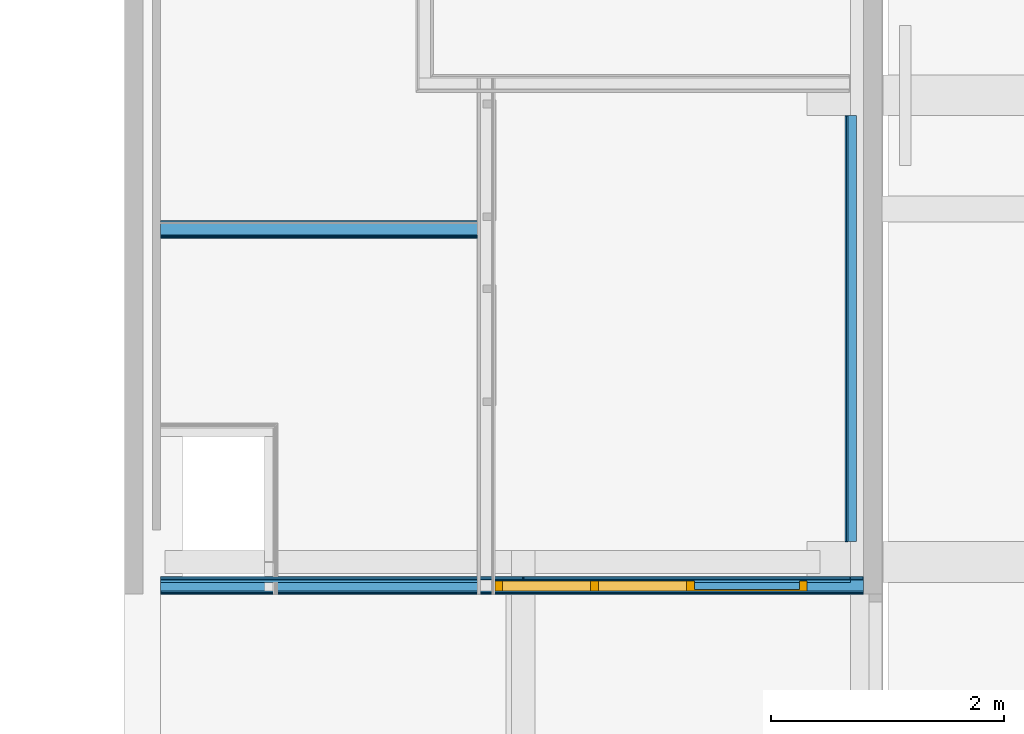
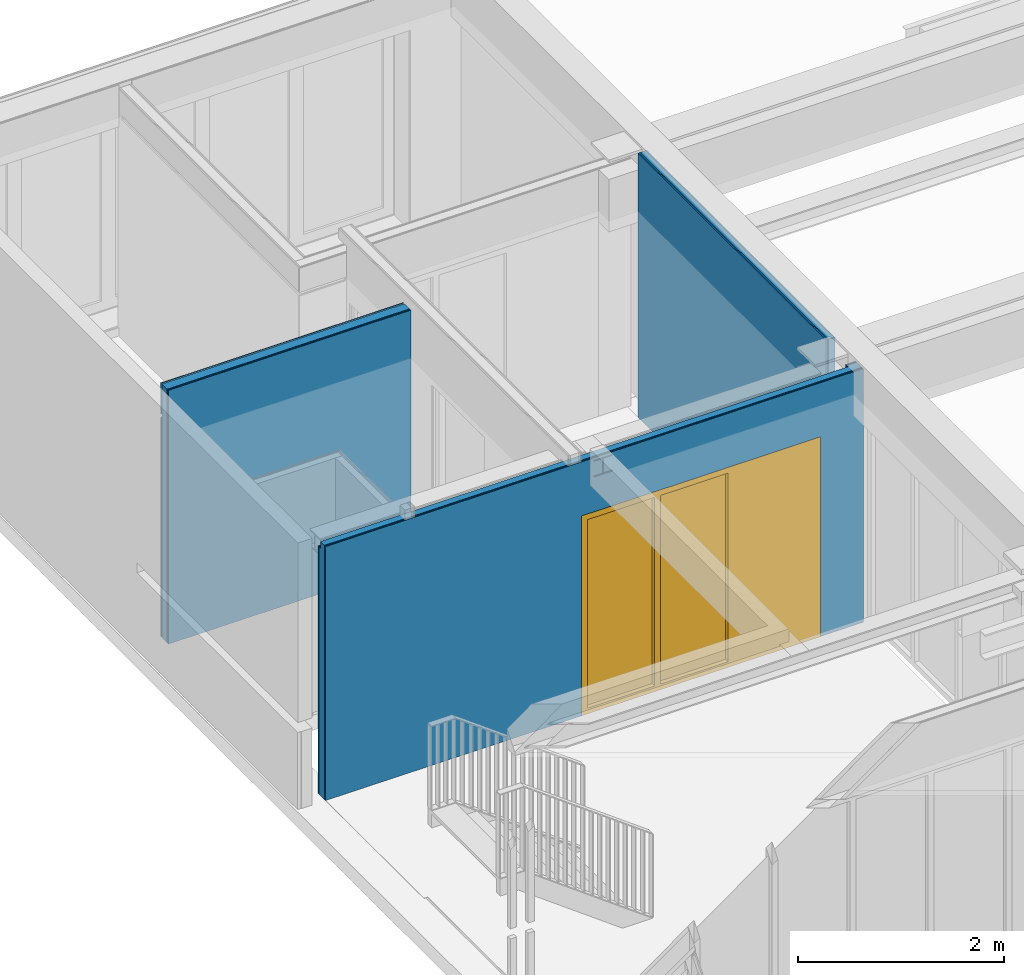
# One storey, part 7 of 13: 12 building element parts, 1 door, 1 opening, 3 elements without a shape of their own.
"""IFC2X3 building model written with IfcOpenShell, lengths in millimetres."""

from ifc_helpers import new_model, entity, si_unit, converted_unit, derived_unit, money_unit, direction, frame, origin_with_axes, place, context, subcontext, project, spatial, open_shell, faceted_brep, surface_model, material, type_object, element, fill, aggregate, save


model = new_model("IFC2X3")

# Units and contexts
model_context = context("Model", 3, precision=0.01, world=origin_with_axes(), true_north=direction((0.0, 1.0)))
body_context = subcontext(model_context, "Body", "Model", "MODEL_VIEW")
ifc_project = project(units=[si_unit("LENGTHUNIT", "METRE", prefix="MILLI"), si_unit("AREAUNIT", "SQUARE_METRE"), si_unit("VOLUMEUNIT", "CUBIC_METRE"), converted_unit("PLANEANGLEUNIT", "DEGREE", entity("IfcPlaneAngleMeasure", 0.0174532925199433), si_unit("PLANEANGLEUNIT", "RADIAN"), dimensions=[0, 0, 0, 0, 0, 0, 0]), money_unit("EUR"), converted_unit("TIMEUNIT", "Year", entity("IfcTimeMeasure", 31557600.0), si_unit("TIMEUNIT", "SECOND"), dimensions=[0, 0, 1, 0, 0, 0, 0]), si_unit("MASSUNIT", "GRAM", prefix="KILO"), si_unit("THERMODYNAMICTEMPERATUREUNIT", "DEGREE_CELSIUS"), si_unit("LUMINOUSINTENSITYUNIT", "LUMEN"), si_unit("ENERGYUNIT", "JOULE", prefix="MEGA"), derived_unit("THERMALCONDUCTANCEUNIT", [(si_unit("POWERUNIT", "WATT"), 1), (si_unit("LENGTHUNIT", "METRE"), -1), (si_unit("THERMODYNAMICTEMPERATUREUNIT", "KELVIN"), -1)]), derived_unit("SPECIFICHEATCAPACITYUNIT", [(si_unit("ENERGYUNIT", "JOULE"), 1), (si_unit("MASSUNIT", "GRAM", prefix="KILO"), -1), (si_unit("THERMODYNAMICTEMPERATUREUNIT", "KELVIN"), -1)]), derived_unit("MASSDENSITYUNIT", [(si_unit("MASSUNIT", "GRAM", prefix="KILO"), 1), (si_unit("VOLUMEUNIT", "CUBIC_METRE"), -1)])], contexts=[model_context])

# Site, building, storey
site_placement = place(None, origin_with_axes())
site = spatial("IfcSite", under=ifc_project, at=site_placement, Name="<site naam>", CompositionType="ELEMENT")
building_placement = place(site_placement, origin_with_axes())
building = spatial("IfcBuilding", under=site, at=building_placement, Name="<Naam gebouw>", CompositionType="ELEMENT")
storey_placement = place(building_placement, frame((0.0, 0.0, 3188.0), z_axis=(0.0, 0.0, 1.0), x_axis=(1.0, 0.0, 0.0)))
storey = spatial("IfcBuildingStorey", under=building, at=storey_placement, Name="01 1e tussenverdieping", CompositionType="ELEMENT", Elevation=3188.0)

# Door
door_style = type_object("IfcDoorStyle", Name="D1 zl1-b 27", ConstructionType="NOTDEFINED", OperationType="SINGLE_SWING_LEFT", ParameterTakesPrecedence=False, Sizeable=False)
wall_1_placement = place(storey_placement, frame((58157.78284470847, 11725.00000000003, 0.0), z_axis=(0.0, 0.0, 1.0), x_axis=(-1.0, 0.0, 0.0)))
opening_placement = place(wall_1_placement, frame((1820.154360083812, 0.0, 0.0), z_axis=(0.0, 0.0, 1.0), x_axis=(1.0, 0.0, 0.0)))
door_placement = place(opening_placement, frame((-1337.637769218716, 0.0, 0.0), z_axis=(0.0, 0.0, 1.0), x_axis=(1.0, 0.0, 0.0)))
door = element("IfcDoor", 1, at=door_placement, inside=storey, type_object=door_style, Name="22_BI-E-16_305", ObjectType="DOOR", OverallHeight=2367.0, OverallWidth=2675.28, context=body_context, shape_type="SurfaceModel", body=[
    faceted_brep([(2675.275538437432, 0.0, 0.0), (2675.275538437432, -114.0000000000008, 0.0), (2608.275538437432, -114.0000000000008, 0.0), (2608.275538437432, 0.0, 0.0), (2675.275538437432, 0.0, 2300.0), (2675.275538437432, -114.0000000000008, 2300.0), (2608.275538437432, -114.0000000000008, 2300.0), (2608.275538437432, -114.0000000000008, 67.00000000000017), (2608.275538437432, 0.0, 67.00000000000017), (2608.275538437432, 0.0, 2300.0)], [[[0, 1, 2, 3]], [[4, 5, 1, 0]], [[1, 5, 6, 7, 2]], [[3, 2, 7, 8]], [[0, 3, 8, 9, 4]], [[9, 6, 5, 4]], [[8, 7, 6, 9]]]),
    faceted_brep([(967.0000000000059, -39.99999999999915, 0.0), (967.0000000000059, -114.0000000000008, 0.0), (967.0000000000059, -113.999999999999, 2300.0), (967.0000000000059, -39.99999999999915, 2300.0), (984.0000000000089, -39.99999999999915, 0.0), (984.0000000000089, 0.0, 0.0), (1034.000000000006, 0.0, 0.0), (1034.000000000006, -114.0000000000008, 0.0), (1034.000000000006, -114.0000000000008, 67.00000000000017), (1034.000000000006, -113.999999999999, 2300.0), (984.0000000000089, -39.99999999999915, 2300.0), (1034.000000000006, 0.0, 2300.0), (984.0000000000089, 0.0, 2300.0), (1034.000000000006, 0.0, 66.99999999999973)], [[[0, 1, 2, 3]], [[4, 5, 6, 7, 1, 0]], [[7, 8, 9, 2, 1]], [[10, 3, 2, 9, 11, 12]], [[10, 4, 0, 3]], [[12, 5, 4, 10]], [[12, 11, 13, 6, 5]], [[6, 13, 8, 7]], [[13, 11, 9, 8]]]),
    faceted_brep([(2608.275538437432, 0.0, 67.00000000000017), (2608.275538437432, -114.0000000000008, 67.00000000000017), (2608.275538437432, -114.0000000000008, 0.0), (2608.275538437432, 0.0, 0.0), (1034.000000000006, 0.0, 67.00000000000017), (1034.000000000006, -114.0000000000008, 67.00000000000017), (1034.000000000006, -114.0000000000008, 0.0), (1034.000000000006, 0.0, 0.0)], [[[0, 1, 2, 3]], [[4, 5, 1, 0]], [[1, 5, 6, 2]], [[3, 2, 6, 7]], [[0, 3, 7, 4]], [[7, 6, 5, 4]]]),
    faceted_brep([(49.99999999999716, -39.99999999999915, 2300.0), (49.99999999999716, 0.0, 2300.0), (0.0, 0.0, 2300.0), (0.0, -113.999999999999, 2300.0), (67.00000000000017, -113.999999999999, 2300.0), (67.00000000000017, -39.99999999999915, 2300.0), (49.99999999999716, -39.99999999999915, 0.0), (49.99999999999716, 0.0, 0.0), (0.0, 0.0, 0.0), (0.0, -113.999999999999, 0.0), (67.00000000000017, -113.999999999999, 0.0), (67.00000000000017, -39.99999999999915, 0.0)], [[[0, 1, 2, 3, 4, 5]], [[0, 6, 7, 1]], [[7, 8, 2, 1]], [[2, 8, 9, 3]], [[3, 9, 10, 4]], [[5, 4, 10, 11]], [[5, 11, 6, 0]], [[6, 11, 10, 9, 8, 7]]]),
    faceted_brep([(984.0000000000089, 0.0, 2317.0), (49.99999999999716, 0.0, 2317.0), (49.99999999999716, 0.0, 2300.0), (0.0, 0.0, 2300.0), (0.0, 0.0, 2367.0), (2675.275538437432, 0.0, 2367.0), (2675.275538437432, 0.0, 2300.0), (2608.275538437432, 0.0, 2300.0), (1034.000000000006, 0.0, 2300.0), (984.0000000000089, 0.0, 2300.0), (984.0000000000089, -39.99999999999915, 2317.0), (49.99999999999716, -39.99999999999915, 2317.0), (49.99999999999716, -39.99999999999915, 2300.0), (67.00000000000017, -39.99999999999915, 2300.0), (67.00000000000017, -113.999999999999, 2300.0), (0.0, -113.999999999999, 2300.0), (0.0, -113.999999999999, 2367.0), (2675.275538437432, -114.0000000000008, 2367.0), (2675.275538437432, -114.0000000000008, 2300.0), (2608.275538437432, -114.0000000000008, 2300.0), (1034.000000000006, -113.999999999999, 2300.0), (984.0000000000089, -39.99999999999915, 2300.0), (967.0000000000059, -113.999999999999, 2300.0)], [[[0, 1, 2, 3, 4, 5, 6, 7, 8, 9]], [[0, 10, 11, 1]], [[1, 11, 12, 2]], [[12, 13, 14, 15, 3, 2]], [[4, 3, 15, 16]], [[5, 4, 16, 17]], [[6, 5, 17, 18]], [[7, 6, 18, 19]], [[8, 7, 19, 20]], [[21, 9, 8, 20, 22, 14, 13]], [[9, 21, 10, 0]], [[12, 11, 10, 21, 13]], [[14, 22, 20, 19, 18, 17, 16, 15]]]),
    faceted_brep([(49.99999999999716, 0.0, 0.0), (984.0000000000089, 0.0, 0.0), (984.0000000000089, -39.99999999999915, 0.0), (49.99999999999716, -39.99999999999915, 0.0), (49.99999999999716, 0.0, 2317.0), (984.0000000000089, 0.0, 2317.0), (984.0000000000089, -39.99999999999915, 2317.0), (49.99999999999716, -39.99999999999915, 2317.0)], [[[0, 1, 2, 3]], [[0, 4, 5, 1]], [[1, 5, 6, 2]], [[3, 2, 6, 7]], [[4, 0, 3, 7]], [[5, 4, 7, 6]]]),
    surface_model("IfcShellBasedSurfaceModel", [(1854.637769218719, -60.0000000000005, 67.00000000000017), (2608.275538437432, -60.0000000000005, 67.00000000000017), (2608.275538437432, -60.0000000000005, 2300.0), (1854.637769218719, -60.0000000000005, 2300.0)], [open_shell([[[0, 1, 2, 3]]])]),
    surface_model("IfcShellBasedSurfaceModel", [(1854.637769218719, -48.00000000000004, 67.00000000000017), (1854.637769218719, -48.00000000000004, 2300.0), (2608.275538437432, -48.00000000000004, 2300.0), (2608.275538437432, -48.00000000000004, 67.00000000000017)], [open_shell([[[0, 1, 2, 3]]])]),
    surface_model("IfcShellBasedSurfaceModel", [(1034.000000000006, -60.0000000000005, 67.00000000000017), (1787.637769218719, -60.0000000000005, 67.00000000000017), (1787.637769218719, -60.0000000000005, 2300.0), (1034.000000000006, -60.0000000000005, 2300.0)], [open_shell([[[0, 1, 2, 3]]])]),
    surface_model("IfcShellBasedSurfaceModel", [(1034.000000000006, -48.00000000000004, 67.00000000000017), (1034.000000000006, -48.00000000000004, 2300.0), (1787.637769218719, -48.00000000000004, 2300.0), (1787.637769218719, -48.00000000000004, 67.00000000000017)], [open_shell([[[0, 1, 2, 3]]])]),
    faceted_brep([(1854.637769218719, -114.0000000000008, 67.00000000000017), (1787.637769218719, -114.0000000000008, 67.00000000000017), (1787.637769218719, 0.0, 67.00000000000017), (1854.637769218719, 0.0, 67.00000000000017), (1854.637769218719, -114.0000000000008, 2300.0), (1787.637769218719, -114.0000000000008, 2300.0), (1787.637769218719, 0.0, 2300.0), (1854.637769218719, 0.0, 2300.0)], [[[0, 1, 2, 3]], [[0, 4, 5, 1]], [[1, 5, 6, 2]], [[3, 2, 6, 7]], [[4, 0, 3, 7]], [[5, 4, 7, 6]]]),
])

# Wall, opening
wall_type_1 = type_object("IfcWallType", Name="MS-01 GF 150 ECO DGS/2.100.2.A 150", PredefinedType="NOTDEFINED")
wall_1 = element("IfcWall", 2, at=wall_1_placement, inside=storey, type_object=wall_type_1, Name="22_Binnenwand_MS-01")
opening = element("IfcOpeningElement", 3, at=opening_placement, cuts=wall_1, Name="22_BI-E-16_305", context=body_context, shape_type="Brep", body=[
    faceted_brep([(-1337.637769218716, -150.9999999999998, 2367.0), (-1337.637769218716, -150.9999999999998, 0.0), (1337.637769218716, -150.9999999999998, 0.0), (1337.637769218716, -150.9999999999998, 2367.0), (-1337.637769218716, 0.9999999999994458, 2367.0), (-1337.637769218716, 0.9999999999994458, 0.0), (1337.637769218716, 0.9999999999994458, 0.0), (1337.637769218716, 0.9999999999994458, 2367.0)], [[[0, 1, 2, 3]], [[4, 5, 1, 0]], [[5, 6, 2, 1]], [[6, 7, 3, 2]], [[7, 4, 0, 3]], [[6, 5, 4, 7]]]),
])

fill(opening, door)

# Building element part
ifc_material_1 = material(Name="gipsplaat")
building_element_part_1_placement = place(wall_1_placement, origin_with_axes())
building_element_part_1 = element("IfcBuildingElementPart", 4, at=building_element_part_1_placement, material=ifc_material_1, Name="gipsplaat", context=body_context, shape_type="Brep", body=[
    faceted_brep([(3157.782863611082, -12.49999999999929, 0.0), (3157.782863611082, -12.50000000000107, 3.000000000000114), (-8.687576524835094e-05, -12.49999999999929, 3.000000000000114), (0.0, -12.49999999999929, 3006.999999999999), (6022.78284470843, -12.50000000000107, 3006.999999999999), (6022.78284470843, -12.50000000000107, 0.0), (3015.684489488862, -12.50000000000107, 2962.013962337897), (3015.684489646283, -12.50000000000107, 2977.013969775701), (2815.684483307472, -12.50000000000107, 2977.013969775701), (2815.684483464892, -12.50000000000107, 2962.013962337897), (2911.184486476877, -12.50000000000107, 2962.013962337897), (2911.184486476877, -12.50000000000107, 2792.013968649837), (2815.684483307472, -12.50000000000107, 2792.013968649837), (2815.684483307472, -12.50000000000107, 2777.013961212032), (3015.684489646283, -12.50000000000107, 2777.013961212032), (3015.684489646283, -12.50000000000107, 2792.013968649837), (2920.184486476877, -12.50000000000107, 2792.013968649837), (2920.184486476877, -12.50000000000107, 2962.013962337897), (3157.782863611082, -25.00000000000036, 0.0), (3157.782863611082, -25.00000000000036, 3.000000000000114), (-8.687576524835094e-05, -25.00000000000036, 3.000000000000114), (0.0, -25.00000000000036, 3006.999999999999), (6022.78284470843, -25.00000000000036, 3006.999999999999), (6022.78284470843, -25.00000000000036, 0.0), (3015.684489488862, -25.00000000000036, 2962.013962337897), (3015.684489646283, -25.00000000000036, 2977.013969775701), (2815.684483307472, -25.00000000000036, 2977.013969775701), (2815.684483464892, -25.00000000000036, 2962.013962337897), (2911.184486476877, -25.00000000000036, 2962.013962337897), (2911.184486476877, -25.00000000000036, 2792.013968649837), (2815.684483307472, -25.00000000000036, 2792.013968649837), (2815.684483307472, -25.00000000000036, 2777.013961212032), (3015.684489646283, -25.00000000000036, 2777.013961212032), (3015.684489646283, -25.00000000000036, 2792.013968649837), (2920.184486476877, -25.00000000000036, 2792.013968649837), (2920.184486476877, -25.00000000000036, 2962.013962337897)], [[[0, 1, 2, 3, 4, 5], [6, 7, 8, 9, 10, 11, 12, 13, 14, 15, 16, 17]], [[0, 18, 19, 1]], [[1, 19, 20, 2]], [[3, 2, 20, 21]], [[3, 21, 22, 4]], [[22, 23, 5, 4]], [[23, 18, 0, 5]], [[24, 25, 7, 6]], [[25, 26, 8, 7]], [[26, 27, 9, 8]], [[27, 28, 10, 9]], [[28, 29, 11, 10]], [[29, 30, 12, 11]], [[30, 31, 13, 12]], [[31, 32, 14, 13]], [[32, 33, 15, 14]], [[33, 34, 16, 15]], [[34, 35, 17, 16]], [[35, 24, 6, 17]], [[20, 19, 18, 23, 22, 21], [28, 27, 26, 25, 24, 35, 34, 33, 32, 31, 30, 29]]]),
])

building_element_part_2_placement = place(wall_1_placement, origin_with_axes())
building_element_part_2 = element("IfcBuildingElementPart", 5, at=building_element_part_2_placement, material=ifc_material_1, Name="gipsplaat", context=body_context, shape_type="Brep", body=[
    faceted_brep([(3157.782863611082, 4.496944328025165e-05, 0.0), (3157.782863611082, 4.496944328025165e-05, 3.000000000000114), (-8.687576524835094e-05, 0.0, 3.000000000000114), (0.0, 0.0, 3006.999999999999), (6022.78284470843, 0.0, 3006.999999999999), (6022.78284470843, 0.0, 0.0), (3015.684489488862, 4.496944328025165e-05, 2962.013962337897), (3015.684489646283, 4.496944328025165e-05, 2977.013969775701), (2815.684483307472, 4.496944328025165e-05, 2977.013969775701), (2815.684483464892, 4.496944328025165e-05, 2962.013962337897), (2911.184486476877, 4.496944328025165e-05, 2962.013962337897), (2911.184486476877, 4.496944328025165e-05, 2792.013968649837), (2815.684483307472, 4.496944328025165e-05, 2792.013968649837), (2815.684483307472, 4.496944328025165e-05, 2777.013961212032), (3015.684489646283, 4.496944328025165e-05, 2777.013961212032), (3015.684489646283, 4.496944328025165e-05, 2792.013968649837), (2920.184486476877, 4.496944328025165e-05, 2792.013968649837), (2920.184486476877, 4.496944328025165e-05, 2962.013962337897), (3157.782863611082, -12.49999999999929, 0.0), (3157.782863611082, -12.50000000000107, 3.000000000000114), (-8.687576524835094e-05, -12.49999999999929, 3.000000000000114), (0.0, -12.49999999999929, 3006.999999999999), (6022.78284470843, -12.50000000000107, 3006.999999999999), (6022.78284470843, -12.50000000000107, 0.0), (3015.684489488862, -12.50000000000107, 2962.013962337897), (3015.684489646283, -12.50000000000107, 2977.013969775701), (2815.684483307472, -12.50000000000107, 2977.013969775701), (2815.684483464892, -12.50000000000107, 2962.013962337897), (2911.184486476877, -12.50000000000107, 2962.013962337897), (2911.184486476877, -12.50000000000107, 2792.013968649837), (2815.684483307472, -12.50000000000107, 2792.013968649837), (2815.684483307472, -12.50000000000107, 2777.013961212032), (3015.684489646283, -12.50000000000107, 2777.013961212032), (3015.684489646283, -12.50000000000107, 2792.013968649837), (2920.184486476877, -12.50000000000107, 2792.013968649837), (2920.184486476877, -12.50000000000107, 2962.013962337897)], [[[0, 1, 2, 3, 4, 5], [6, 7, 8, 9, 10, 11, 12, 13, 14, 15, 16, 17]], [[0, 18, 19, 1]], [[1, 19, 20, 2]], [[3, 2, 20, 21]], [[3, 21, 22, 4]], [[22, 23, 5, 4]], [[23, 18, 0, 5]], [[24, 25, 7, 6]], [[25, 26, 8, 7]], [[26, 27, 9, 8]], [[27, 28, 10, 9]], [[28, 29, 11, 10]], [[29, 30, 12, 11]], [[30, 31, 13, 12]], [[31, 32, 14, 13]], [[32, 33, 15, 14]], [[33, 34, 16, 15]], [[34, 35, 17, 16]], [[35, 24, 6, 17]], [[20, 19, 18, 23, 22, 21], [28, 27, 26, 25, 24, 35, 34, 33, 32, 31, 30, 29]]]),
])

ifc_material_2 = material(Name="isolatie_steenwol LSW")
building_element_part_3_placement = place(wall_1_placement, origin_with_axes())
building_element_part_3 = element("IfcBuildingElementPart", 6, at=building_element_part_3_placement, material=ifc_material_2, Name="isolatie_steenwol LSW", context=body_context, shape_type="Brep", body=[
    faceted_brep([(2911.184486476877, -125.0, 2926.999999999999), (112.7830614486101, -125.0, 2926.999999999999), (112.7830614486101, -125.0, 3006.999999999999), (0.0, -125.0, 3006.999999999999), (-8.687576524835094e-05, -125.0, 3.000000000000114), (3157.782863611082, -125.0, 3.000000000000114), (3157.782863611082, -125.0, 0.0), (6022.78284470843, -125.0, 0.0), (6022.78284470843, -125.0, 2926.999999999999), (2920.184486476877, -125.0, 2926.999999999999), (2920.184486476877, -125.0, 2792.013968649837), (3015.684489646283, -125.0, 2792.013968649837), (3015.684489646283, -125.0, 2777.013961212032), (2815.684483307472, -125.0, 2777.013961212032), (2815.684483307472, -125.0, 2792.013968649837), (2911.184486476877, -125.0, 2792.013968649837), (2911.184486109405, -99.9999999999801, 2926.999999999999), (112.7830614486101, -99.9999999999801, 2926.999999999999), (112.7830614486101, -99.9999999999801, 3006.999999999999), (6022.78284470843, -99.9999999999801, 3006.999999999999), (6022.78284470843, -25.00000000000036, 3006.999999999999), (0.0, -25.00000000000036, 3006.999999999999), (-8.687576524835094e-05, -25.00000000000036, 3.000000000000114), (3157.782863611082, -25.00000000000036, 3.000000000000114), (3157.782863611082, -25.00000000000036, 0.0), (6022.78284470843, -25.00000000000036, 0.0), (6022.78284470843, -99.9999999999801, 2926.999999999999), (2920.184487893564, -99.9999999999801, 2926.999999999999), (2920.184486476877, -99.9999999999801, 2962.013962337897), (2920.184486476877, -25.00000000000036, 2962.013962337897), (2920.184486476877, -25.00000000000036, 2792.013968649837), (3015.684489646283, -25.00000000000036, 2792.013968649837), (3015.684489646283, -25.00000000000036, 2777.013961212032), (2815.684483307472, -25.00000000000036, 2777.013961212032), (2815.684483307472, -25.00000000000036, 2792.013968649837), (2911.184486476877, -25.00000000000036, 2792.013968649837), (2911.184486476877, -25.00000000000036, 2962.013962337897), (2911.184486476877, -99.9999999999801, 2962.013962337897), (2815.684483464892, -99.9999999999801, 2962.013962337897), (2815.684483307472, -99.9999999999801, 2977.013969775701), (3015.684489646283, -99.9999999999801, 2977.013969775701), (3015.684489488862, -99.9999999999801, 2962.013962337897), (3015.684489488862, -25.00000000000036, 2962.013962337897), (3015.684489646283, -25.00000000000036, 2977.013969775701), (2815.684483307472, -25.00000000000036, 2977.013969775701), (2815.684483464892, -25.00000000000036, 2962.013962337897)], [[[0, 1, 2, 3, 4, 5, 6, 7, 8, 9, 10, 11, 12, 13, 14, 15]], [[1, 0, 16, 17]], [[18, 2, 1, 17]], [[18, 19, 20, 21, 3, 2]], [[3, 21, 22, 4]], [[22, 23, 5, 4]], [[23, 24, 6, 5]], [[25, 7, 6, 24]], [[26, 8, 7, 25, 20, 19]], [[27, 9, 8, 26]], [[27, 28, 29, 30, 10, 9]], [[31, 11, 10, 30]], [[32, 12, 11, 31]], [[33, 13, 12, 32]], [[34, 14, 13, 33]], [[35, 15, 14, 34]], [[16, 0, 15, 35, 36, 37]], [[19, 18, 17, 16, 37, 38, 39, 40, 41, 28, 27, 26]], [[25, 24, 23, 22, 21, 20], [29, 42, 43, 44, 45, 36, 35, 34, 33, 32, 31, 30]], [[28, 41, 42, 29]], [[38, 37, 36, 45]], [[39, 38, 45, 44]], [[40, 39, 44, 43]], [[41, 40, 43, 42]]]),
])

building_element_part_4_placement = place(wall_1_placement, origin_with_axes())
building_element_part_4 = element("IfcBuildingElementPart", 7, at=building_element_part_4_placement, material=ifc_material_1, Name="gipsplaat", context=body_context, shape_type="Brep", body=[
    faceted_brep([(2911.184486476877, -137.5000000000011, 2926.999999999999), (112.7830614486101, -137.4999999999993, 2926.999999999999), (112.7830614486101, -137.4999999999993, 3006.999999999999), (0.0, -137.4999999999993, 3006.999999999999), (-8.687576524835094e-05, -137.4999999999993, 3.000000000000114), (3157.782863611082, -137.5000000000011, 3.000000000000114), (3157.782863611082, -137.4999999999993, 0.0), (6022.78284470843, -137.5000000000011, 0.0), (6022.78284470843, -137.4999999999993, 2926.999999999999), (2920.184486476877, -137.5000000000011, 2926.999999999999), (2920.184486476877, -137.5000000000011, 2792.013968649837), (3015.684489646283, -137.5000000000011, 2792.013968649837), (3015.684489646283, -137.5000000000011, 2777.013961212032), (2815.684483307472, -137.5000000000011, 2777.013961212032), (2815.684483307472, -137.5000000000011, 2792.013968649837), (2911.184486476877, -137.5000000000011, 2792.013968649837), (2911.184486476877, -125.0, 2926.999999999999), (112.7830614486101, -125.0, 2926.999999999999), (112.7830614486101, -125.0, 3006.999999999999), (0.0, -125.0, 3006.999999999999), (-8.687576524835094e-05, -125.0, 3.000000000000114), (3157.782863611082, -125.0, 3.000000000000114), (3157.782863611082, -125.0, 0.0), (6022.78284470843, -125.0, 0.0), (6022.78284470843, -125.0, 2926.999999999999), (2920.184486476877, -125.0, 2926.999999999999), (2920.184486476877, -125.0, 2792.013968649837), (3015.684489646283, -125.0, 2792.013968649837), (3015.684489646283, -125.0, 2777.013961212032), (2815.684483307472, -125.0, 2777.013961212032), (2815.684483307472, -125.0, 2792.013968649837), (2911.184486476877, -125.0, 2792.013968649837)], [[[0, 1, 2, 3, 4, 5, 6, 7, 8, 9, 10, 11, 12, 13, 14, 15]], [[1, 0, 16, 17]], [[18, 2, 1, 17]], [[2, 18, 19, 3]], [[3, 19, 20, 4]], [[20, 21, 5, 4]], [[21, 22, 6, 5]], [[23, 7, 6, 22]], [[24, 8, 7, 23]], [[25, 9, 8, 24]], [[9, 25, 26, 10]], [[27, 11, 10, 26]], [[28, 12, 11, 27]], [[29, 13, 12, 28]], [[30, 14, 13, 29]], [[31, 15, 14, 30]], [[16, 0, 15, 31]], [[17, 16, 31, 30, 29, 28, 27, 26, 25, 24, 23, 22, 21, 20, 19, 18]]]),
])

building_element_part_5_placement = place(wall_1_placement, origin_with_axes())
building_element_part_5 = element("IfcBuildingElementPart", 8, at=building_element_part_5_placement, material=ifc_material_1, Name="gipsplaat", context=body_context, shape_type="Brep", body=[
    faceted_brep([(2911.184486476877, -150.0000000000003, 2926.999999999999), (112.7830614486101, -150.0000000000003, 2926.999999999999), (112.7830614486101, -150.0000000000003, 3006.999999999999), (0.0, -150.0000000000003, 3006.999999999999), (-8.687576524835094e-05, -150.0000000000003, 3.000000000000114), (3157.782863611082, -150.0000000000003, 3.000000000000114), (3157.782863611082, -150.0000000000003, 0.0), (6022.78284470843, -150.0000000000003, 0.0), (6022.78284470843, -150.0000000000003, 2926.999999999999), (2920.184486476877, -150.0000000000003, 2926.999999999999), (2920.184486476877, -150.0000000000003, 2792.013968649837), (3015.684489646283, -150.0000000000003, 2792.013968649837), (3015.684489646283, -150.0000000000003, 2777.013961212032), (2815.684483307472, -150.0000000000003, 2777.013961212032), (2815.684483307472, -150.0000000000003, 2792.013968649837), (2911.184486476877, -150.0000000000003, 2792.013968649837), (2911.184486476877, -137.4999999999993, 2926.999999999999), (112.7830614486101, -137.4999999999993, 2926.999999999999), (112.7830614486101, -137.4999999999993, 3006.999999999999), (0.0, -137.4999999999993, 3006.999999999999), (-8.687576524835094e-05, -137.4999999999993, 3.000000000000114), (3157.782863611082, -137.4999999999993, 3.000000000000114), (3157.782863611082, -137.4999999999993, 0.0), (6022.78284470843, -137.5000000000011, 0.0), (6022.78284470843, -137.4999999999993, 2926.999999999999), (2920.184486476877, -137.4999999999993, 2926.999999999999), (2920.184486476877, -137.4999999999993, 2792.013968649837), (3015.684489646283, -137.4999999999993, 2792.013968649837), (3015.684489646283, -137.4999999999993, 2777.013961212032), (2815.684483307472, -137.4999999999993, 2777.013961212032), (2815.684483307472, -137.4999999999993, 2792.013968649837), (2911.184486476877, -137.4999999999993, 2792.013968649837)], [[[0, 1, 2, 3, 4, 5, 6, 7, 8, 9, 10, 11, 12, 13, 14, 15]], [[1, 0, 16, 17]], [[18, 2, 1, 17]], [[2, 18, 19, 3]], [[3, 19, 20, 4]], [[20, 21, 5, 4]], [[21, 22, 6, 5]], [[23, 7, 6, 22]], [[24, 8, 7, 23]], [[25, 9, 8, 24]], [[9, 25, 26, 10]], [[27, 11, 10, 26]], [[28, 12, 11, 27]], [[29, 13, 12, 28]], [[30, 14, 13, 29]], [[31, 15, 14, 30]], [[16, 0, 15, 31]], [[17, 16, 31, 30, 29, 28, 27, 26, 25, 24, 23, 22, 21, 20, 19, 18]]]),
])

aggregate(wall_1, [building_element_part_1, building_element_part_2, building_element_part_3, building_element_part_4, building_element_part_5])

# Wall, building element parts
wall_2_placement = place(storey_placement, frame((52135.00885506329, 14849.99071418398, 0.0), z_axis=(0.0, 0.0, 1.0), x_axis=(1.0, 0.0, 0.0)))
wall_2 = element("IfcWall", 9, at=wall_2_placement, inside=storey, type_object=wall_type_1, Name="22_Binnenwand_MS-01")
building_element_part_6_placement = place(wall_2_placement, origin_with_axes())
building_element_part_6 = element("IfcBuildingElementPart", 10, at=building_element_part_6_placement, material=ifc_material_2, Name="isolatie_steenwol LSW", context=body_context, shape_type="Brep", body=[
    faceted_brep([(0.4523710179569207, -49.99999999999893, 1062.0), (-0.005698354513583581, -50.00000000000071, 1062.0), (-0.008800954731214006, -50.00000000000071, 3.000000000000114), (2714.981934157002, -50.00000000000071, 3.000000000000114), (2714.991148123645, -49.99999999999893, 3006.999999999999), (0.0, -49.99999999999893, 3006.999999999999), (-0.005689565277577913, -50.00000000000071, 1065.0), (0.4523710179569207, -49.99999999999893, 1065.0), (0.4523710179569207, -5.88944315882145, 1062.0), (0.0, -5.88944315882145, 1062.0), (0.0, -5.88944315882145, 1065.0), (0.0, 50.00000000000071, 3006.999999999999), (-0.008800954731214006, 50.00000000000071, 3.000000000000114), (2714.981934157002, 50.00000000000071, 3.000000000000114), (2714.991148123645, 50.00000000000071, 3006.999999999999), (0.4523710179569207, -5.88944315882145, 1065.0)], [[[0, 1, 2, 3, 4, 5, 6, 7]], [[1, 0, 8, 9]], [[10, 6, 5, 11, 12, 2, 1, 9]], [[12, 13, 3, 2]], [[3, 13, 14, 4]], [[4, 14, 11, 5]], [[7, 6, 10, 15]], [[0, 7, 15, 8]], [[10, 9, 8, 15]], [[13, 12, 11, 14]]]),
])
building_element_part_7_placement = place(wall_2_placement, origin_with_axes())
building_element_part_7 = element("IfcBuildingElementPart", 11, at=building_element_part_7_placement, material=ifc_material_1, Name="gipsplaat", context=body_context, shape_type="Brep", body=[
    faceted_brep([(5.541701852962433e-05, 75.00000000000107, 2600.0), (2714.802294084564, 75.00000000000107, 2600.0), (2714.802294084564, 75.00000000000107, 2640.0), (5.541701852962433e-05, 75.00000000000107, 2640.0), (0.0, 75.00000000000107, 3006.999999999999), (2714.991148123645, 75.00000000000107, 3006.999999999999), (2714.981934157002, 75.00000000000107, 3.000000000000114), (-0.008800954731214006, 74.99999999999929, 3.000000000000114), (5.541701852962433e-05, 62.5, 2600.0), (2714.802294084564, 62.5, 2600.0), (2714.802294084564, 62.5, 2640.0), (5.541701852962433e-05, 62.5, 2640.0), (0.0, 62.5, 3006.999999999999), (2714.991148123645, 62.5, 3006.999999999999), (2714.981934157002, 62.5, 3.000000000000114), (-0.008800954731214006, 62.5, 3.000000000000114)], [[[0, 1, 2, 3, 4, 5, 6, 7]], [[1, 0, 8, 9]], [[2, 1, 9, 10]], [[3, 2, 10, 11]], [[3, 11, 12, 4]], [[13, 5, 4, 12]], [[14, 6, 5, 13]], [[7, 6, 14, 15]], [[8, 0, 7, 15]], [[9, 8, 15, 14, 13, 12, 11, 10]]]),
])
building_element_part_8_placement = place(wall_2_placement, origin_with_axes())
building_element_part_8 = element("IfcBuildingElementPart", 12, at=building_element_part_8_placement, material=ifc_material_1, Name="gipsplaat", context=body_context, shape_type="Brep", body=[
    faceted_brep([(-0.005698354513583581, -50.00000000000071, 1062.0), (0.4523710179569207, -50.00000000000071, 1062.0), (0.4523710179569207, -50.00000000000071, 1065.0), (-0.005689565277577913, -50.00000000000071, 1065.0), (0.0, -49.99999999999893, 3006.999999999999), (2714.991148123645, -49.99999999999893, 3006.999999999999), (2714.981934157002, -50.00000000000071, 3.000000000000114), (-0.008800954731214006, -50.00000000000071, 3.000000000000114), (-0.005698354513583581, -62.5, 1062.0), (0.4523710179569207, -62.5, 1062.0), (0.4523710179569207, -62.5, 1065.0), (-0.005689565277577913, -62.5, 1065.0), (0.0, -62.5, 3006.999999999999), (2714.991148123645, -62.5, 3006.999999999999), (2714.981934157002, -62.5, 3.000000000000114), (-0.008800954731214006, -62.5, 3.000000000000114)], [[[0, 1, 2, 3, 4, 5, 6, 7]], [[1, 0, 8, 9]], [[2, 1, 9, 10]], [[3, 2, 10, 11]], [[3, 11, 12, 4]], [[13, 5, 4, 12]], [[14, 6, 5, 13]], [[7, 6, 14, 15]], [[8, 0, 7, 15]], [[9, 8, 15, 14, 13, 12, 11, 10]]]),
])
building_element_part_9_placement = place(wall_2_placement, origin_with_axes())
building_element_part_9 = element("IfcBuildingElementPart", 13, at=building_element_part_9_placement, material=ifc_material_1, Name="gipsplaat", context=body_context, shape_type="Brep", body=[
    faceted_brep([(-0.005698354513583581, -62.5, 1062.0), (0.4523710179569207, -62.5, 1062.0), (0.4523710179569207, -62.5, 1065.0), (-0.005689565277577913, -62.5, 1065.0), (0.0, -62.5, 3006.999999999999), (2714.991148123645, -62.5, 3006.999999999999), (2714.981934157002, -62.5, 3.000000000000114), (-0.008800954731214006, -62.5, 3.000000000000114), (-0.005698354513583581, -74.99999999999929, 1062.0), (0.4523710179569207, -74.99999999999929, 1062.0), (0.4523710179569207, -74.99999999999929, 1065.0), (-0.005689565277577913, -74.99999999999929, 1065.0), (0.0, -74.99999999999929, 3006.999999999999), (2714.991148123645, -74.99999999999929, 3006.999999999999), (2714.981934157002, -74.99999999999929, 3.000000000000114), (-0.008800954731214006, -74.99999999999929, 3.000000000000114)], [[[0, 1, 2, 3, 4, 5, 6, 7]], [[1, 0, 8, 9]], [[2, 1, 9, 10]], [[3, 2, 10, 11]], [[3, 11, 12, 4]], [[13, 5, 4, 12]], [[14, 6, 5, 13]], [[7, 6, 14, 15]], [[8, 0, 7, 15]], [[9, 8, 15, 14, 13, 12, 11, 10]]]),
])
aggregate(wall_2, [building_element_part_6, building_element_part_7, building_element_part_8, building_element_part_9])

wall_type_2 = type_object("IfcWallType", Name="MS-03 GF 100 HTT DGS V/100.2 100", PredefinedType="NOTDEFINED")
wall_3_placement = place(storey_placement, frame((58000.00000000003, 12175.00000000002, 0.0), z_axis=(0.0, 0.0, 1.0), x_axis=(0.0, 1.0, 0.0)))
wall_3 = element("IfcWall", 14, at=wall_3_placement, inside=storey, type_object=wall_type_2, Name="22_Binnenwand_MS-03")
building_element_part_10_placement = place(wall_3_placement, origin_with_axes())
building_element_part_10 = element("IfcBuildingElementPart", 15, at=building_element_part_10_placement, material=ifc_material_1, Name="gipsplaat", context=body_context, shape_type="Brep", body=[
    faceted_brep([(3649.999999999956, -12.50000000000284, 3127.000000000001), (3649.999999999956, -24.99999999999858, 3127.000000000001), (3649.999999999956, -24.99999999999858, 0.0), (3649.999999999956, -12.50000000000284, 0.0), (0.0, -24.99999999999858, 3127.000000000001), (0.0, -12.50000000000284, 3127.000000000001), (0.0, -24.99999999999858, 0.0), (0.0, -12.50000000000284, 0.0)], [[[0, 1, 2, 3]], [[4, 1, 0, 5]], [[1, 4, 6, 2]], [[7, 3, 2, 6]], [[5, 0, 3, 7]], [[4, 5, 7, 6]]]),
])
building_element_part_11_placement = place(wall_3_placement, origin_with_axes())
building_element_part_11 = element("IfcBuildingElementPart", 16, at=building_element_part_11_placement, material=ifc_material_1, Name="gipsplaat", context=body_context, shape_type="Brep", body=[
    faceted_brep([(3649.999999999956, 0.0, 3127.000000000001), (3649.999999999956, -12.50000000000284, 3127.000000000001), (3649.999999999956, -12.50000000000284, 0.0), (3649.999999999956, 0.0, 0.0), (0.0, -12.50000000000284, 3127.000000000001), (0.0, 0.0, 3127.000000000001), (0.0, -12.50000000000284, 0.0), (0.0, 0.0, 0.0)], [[[0, 1, 2, 3]], [[4, 1, 0, 5]], [[1, 4, 6, 2]], [[7, 3, 2, 6]], [[5, 0, 3, 7]], [[4, 5, 7, 6]]]),
])
building_element_part_12_placement = place(wall_3_placement, origin_with_axes())
building_element_part_12 = element("IfcBuildingElementPart", 17, at=building_element_part_12_placement, material=ifc_material_2, Name="isolatie_steenwol LSW", context=body_context, shape_type="Brep", body=[
    faceted_brep([(3649.999999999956, -24.99999999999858, 3127.000000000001), (3649.999999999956, -100.0000000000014, 3127.000000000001), (3649.999999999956, -100.0000000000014, 0.0), (3649.999999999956, -24.99999999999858, 0.0), (0.0, -100.0000000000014, 3127.000000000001), (0.0, -24.99999999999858, 3127.000000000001), (0.0, -100.0000000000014, 0.0), (0.0, -24.99999999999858, 0.0)], [[[0, 1, 2, 3]], [[4, 1, 0, 5]], [[1, 4, 6, 2]], [[7, 3, 2, 6]], [[5, 0, 3, 7]], [[4, 5, 7, 6]]]),
])
aggregate(wall_3, [building_element_part_10, building_element_part_11, building_element_part_12])

save(model, "model.ifc")
